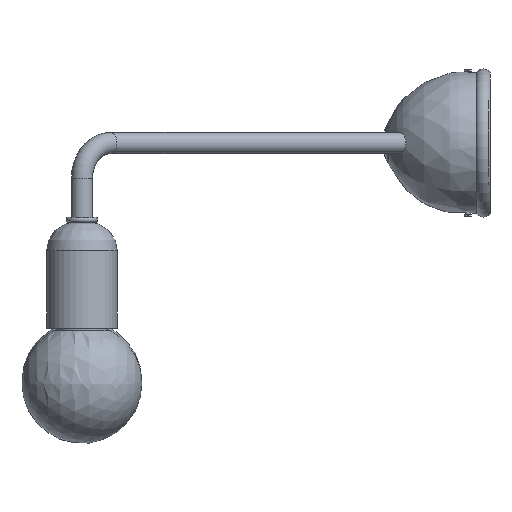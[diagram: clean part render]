
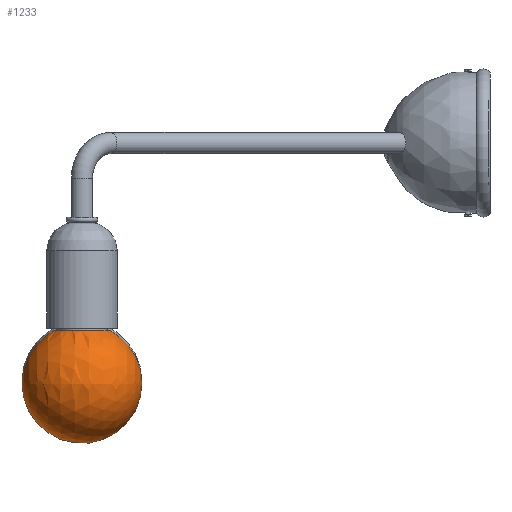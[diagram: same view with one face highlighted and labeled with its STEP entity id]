
A CAD part, left-side view. The second image highlights one B-rep face of the part: STEP entity #1233.
In plain terms, the highlighted spherical face has radius 34 mm.
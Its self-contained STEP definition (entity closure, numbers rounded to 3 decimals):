
#64=SPHERICAL_SURFACE('',#1637,34.);
#75=FACE_BOUND('',#405,.T.);
#322=FACE_OUTER_BOUND('',#404,.T.);
#404=EDGE_LOOP('',(#1126,#1127));
#405=EDGE_LOOP('',(#1128));
#530=CIRCLE('',#1636,16.142);
#531=CIRCLE('',#1638,34.);
#646=VERTEX_POINT('',#2727);
#647=VERTEX_POINT('',#2730);
#648=VERTEX_POINT('',#2731);
#807=EDGE_CURVE('',#646,#646,#530,.T.);
#808=EDGE_CURVE('',#647,#648,#531,.T.);
#1126=ORIENTED_EDGE('',*,*,#808,.T.);
#1127=ORIENTED_EDGE('',*,*,#808,.F.);
#1128=ORIENTED_EDGE('',*,*,#807,.T.);
#1233=ADVANCED_FACE('',(#322,#75),#64,.T.);
#1636=AXIS2_PLACEMENT_3D('',#2728,#2080,#2081);
#1637=AXIS2_PLACEMENT_3D('',#2729,#2082,#2083);
#1638=AXIS2_PLACEMENT_3D('',#2732,#2084,#2085);
#2080=DIRECTION('center_axis',(0.,-1.,0.));
#2081=DIRECTION('ref_axis',(1.,0.,0.));
#2082=DIRECTION('center_axis',(0.,0.,1.));
#2083=DIRECTION('ref_axis',(1.,0.,0.));
#2084=DIRECTION('center_axis',(0.,-1.,0.));
#2085=DIRECTION('ref_axis',(-1.,0.,0.));
#2727=CARTESIAN_POINT('',(16.142,29.924,0.));
#2728=CARTESIAN_POINT('Origin',(0.,29.924,0.));
#2729=CARTESIAN_POINT('Origin',(0.,0.,0.));
#2730=CARTESIAN_POINT('',(0.,0.,34.));
#2731=CARTESIAN_POINT('',(0.,0.,-34.));
#2732=CARTESIAN_POINT('Origin',(0.,0.,0.));
